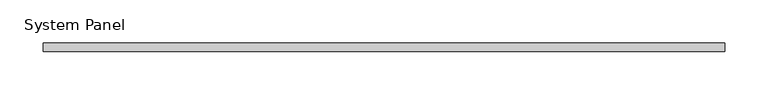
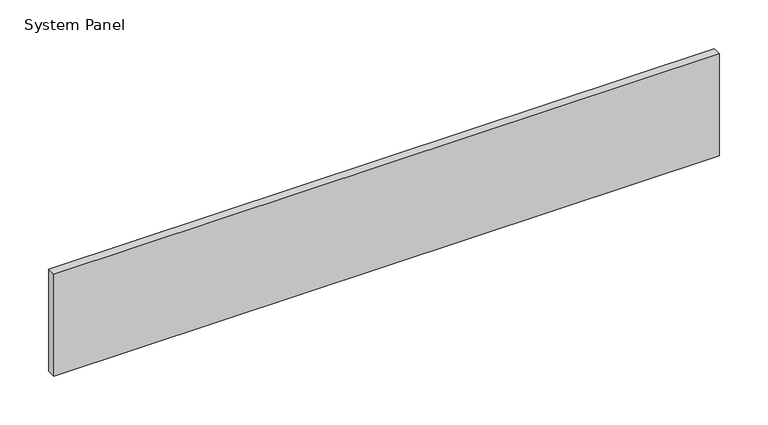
"""IFC4 building model written with IfcOpenShell, lengths in millimetres: plate geometry, System Panel : VACÍO."""

from ifc_helpers import new_model, si_unit, origin, origin_with_axes, place, context, project, spatial, polyline, outline, extrude, source, transform, mapped, element, save


def system_panel_f5b40a2c(model_context):
    return source(origin(), model_context, "Body", "SweptSolid", [
        extrude(outline(polyline([(393.5297721, -5.0), (-393.5297721, -5.0), (-393.5297721, 5.0), (393.5297721, 5.0), (393.5297721, -5.0)])), origin_with_axes(), (0.0, 0.0, 1.0), 127.6666667),
    ])


if __name__ == "__main__":
    model = new_model("IFC4")
    model_context = context("Model", 3, world=origin())
    ifc_project = project(units=[si_unit("LENGTHUNIT", "METRE", prefix="MILLI")], contexts=[model_context])
    site = spatial("IfcSite", under=ifc_project)
    building = spatial("IfcBuilding", under=site)
    placement = place(None, origin())
    system_panel_shape = system_panel_f5b40a2c(model_context)
    element("IfcPlate", 1, ObjectType="System Panel : VACÍO", at=placement, inside=building, context=model_context, shape_type="MappedRepresentation", body=[
        mapped(system_panel_shape, transform((0.0, 0.0, 0.0), x_axis=(1.0, 0.0, 0.0), y_axis=(0.0, 1.0, 0.0), z_axis=(0.0, 0.0, 1.0))),
    ])
    save(model, "model.ifc")
